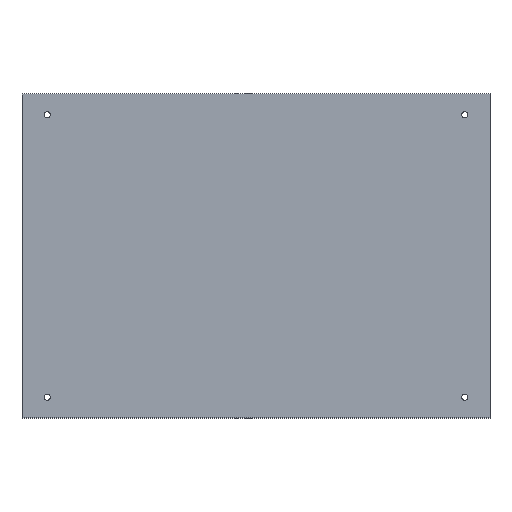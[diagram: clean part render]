
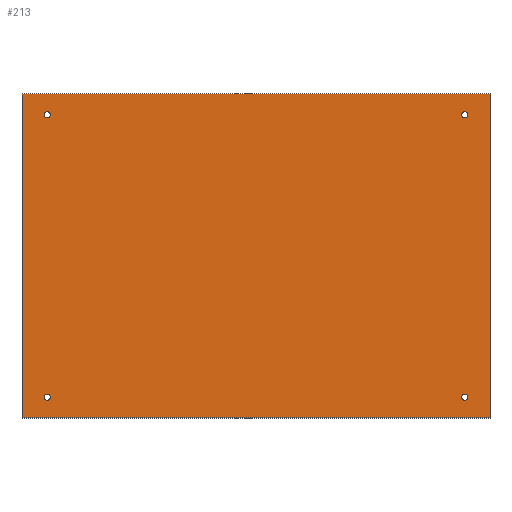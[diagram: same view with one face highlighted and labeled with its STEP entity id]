
A CAD part, top view. The second image highlights one B-rep face of the part: STEP entity #213.
In plain terms, the highlighted planar face has unit normal (0, 0, 1).
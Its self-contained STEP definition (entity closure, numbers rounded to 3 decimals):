
#24 = VERTEX_POINT('',#25);
#25 = CARTESIAN_POINT('',(-130.,-90.,90.));
#32 = PLANE('',#33);
#33 = AXIS2_PLACEMENT_3D('',#34,#35,#36);
#34 = CARTESIAN_POINT('',(-130.,-90.,88.5));
#35 = DIRECTION('',(1.,0.,0.));
#36 = DIRECTION('',(0.,0.,1.));
#44 = PLANE('',#45);
#45 = AXIS2_PLACEMENT_3D('',#46,#47,#48);
#46 = CARTESIAN_POINT('',(-130.,-90.,88.5));
#47 = DIRECTION('',(0.,1.,0.));
#48 = DIRECTION('',(0.,0.,1.));
#85 = VERTEX_POINT('',#86);
#86 = CARTESIAN_POINT('',(-130.,90.,90.));
#100 = PLANE('',#101);
#101 = AXIS2_PLACEMENT_3D('',#102,#103,#104);
#102 = CARTESIAN_POINT('',(-130.,90.,88.5));
#103 = DIRECTION('',(0.,1.,0.));
#104 = DIRECTION('',(0.,0.,1.));
#112 = EDGE_CURVE('',#24,#85,#113,.T.);
#113 = SURFACE_CURVE('',#114,(#118,#125),.PCURVE_S1.);
#114 = LINE('',#115,#116);
#115 = CARTESIAN_POINT('',(-130.,-90.,90.));
#116 = VECTOR('',#117,1.);
#117 = DIRECTION('',(0.,1.,0.));
#118 = PCURVE('',#32,#119);
#119 = DEFINITIONAL_REPRESENTATION('',(#120),#124);
#120 = LINE('',#121,#122);
#121 = CARTESIAN_POINT('',(1.5,0.));
#122 = VECTOR('',#123,1.);
#123 = DIRECTION('',(0.,-1.));
#124 = ( GEOMETRIC_REPRESENTATION_CONTEXT(2) 
PARAMETRIC_REPRESENTATION_CONTEXT() REPRESENTATION_CONTEXT('2D SPACE',''
  ) );
#125 = PCURVE('',#126,#131);
#126 = PLANE('',#127);
#127 = AXIS2_PLACEMENT_3D('',#128,#129,#130);
#128 = CARTESIAN_POINT('',(-130.,-90.,90.));
#129 = DIRECTION('',(0.,0.,1.));
#130 = DIRECTION('',(1.,0.,0.));
#131 = DEFINITIONAL_REPRESENTATION('',(#132),#136);
#132 = LINE('',#133,#134);
#133 = CARTESIAN_POINT('',(0.,0.));
#134 = VECTOR('',#135,1.);
#135 = DIRECTION('',(0.,1.));
#136 = ( GEOMETRIC_REPRESENTATION_CONTEXT(2) 
PARAMETRIC_REPRESENTATION_CONTEXT() REPRESENTATION_CONTEXT('2D SPACE',''
  ) );
#165 = EDGE_CURVE('',#24,#166,#168,.T.);
#166 = VERTEX_POINT('',#167);
#167 = CARTESIAN_POINT('',(130.,-90.,90.));
#168 = SURFACE_CURVE('',#169,(#173,#180),.PCURVE_S1.);
#169 = LINE('',#170,#171);
#170 = CARTESIAN_POINT('',(-130.,-90.,90.));
#171 = VECTOR('',#172,1.);
#172 = DIRECTION('',(1.,0.,0.));
#173 = PCURVE('',#44,#174);
#174 = DEFINITIONAL_REPRESENTATION('',(#175),#179);
#175 = LINE('',#176,#177);
#176 = CARTESIAN_POINT('',(1.5,0.));
#177 = VECTOR('',#178,1.);
#178 = DIRECTION('',(0.,1.));
#179 = ( GEOMETRIC_REPRESENTATION_CONTEXT(2) 
PARAMETRIC_REPRESENTATION_CONTEXT() REPRESENTATION_CONTEXT('2D SPACE',''
  ) );
#180 = PCURVE('',#126,#181);
#181 = DEFINITIONAL_REPRESENTATION('',(#182),#186);
#182 = LINE('',#183,#184);
#183 = CARTESIAN_POINT('',(0.,0.));
#184 = VECTOR('',#185,1.);
#185 = DIRECTION('',(1.,0.));
#186 = ( GEOMETRIC_REPRESENTATION_CONTEXT(2) 
PARAMETRIC_REPRESENTATION_CONTEXT() REPRESENTATION_CONTEXT('2D SPACE',''
  ) );
#202 = PLANE('',#203);
#203 = AXIS2_PLACEMENT_3D('',#204,#205,#206);
#204 = CARTESIAN_POINT('',(130.,-90.,88.5));
#205 = DIRECTION('',(1.,0.,0.));
#206 = DIRECTION('',(0.,0.,1.));
#213 = ADVANCED_FACE('',(#214,#262,#293,#324,#355),#126,.T.);
#214 = FACE_BOUND('',#215,.T.);
#215 = EDGE_LOOP('',(#216,#217,#218,#241));
#216 = ORIENTED_EDGE('',*,*,#112,.F.);
#217 = ORIENTED_EDGE('',*,*,#165,.T.);
#218 = ORIENTED_EDGE('',*,*,#219,.T.);
#219 = EDGE_CURVE('',#166,#220,#222,.T.);
#220 = VERTEX_POINT('',#221);
#221 = CARTESIAN_POINT('',(130.,90.,90.));
#222 = SURFACE_CURVE('',#223,(#227,#234),.PCURVE_S1.);
#223 = LINE('',#224,#225);
#224 = CARTESIAN_POINT('',(130.,-90.,90.));
#225 = VECTOR('',#226,1.);
#226 = DIRECTION('',(0.,1.,0.));
#227 = PCURVE('',#126,#228);
#228 = DEFINITIONAL_REPRESENTATION('',(#229),#233);
#229 = LINE('',#230,#231);
#230 = CARTESIAN_POINT('',(260.,0.));
#231 = VECTOR('',#232,1.);
#232 = DIRECTION('',(0.,1.));
#233 = ( GEOMETRIC_REPRESENTATION_CONTEXT(2) 
PARAMETRIC_REPRESENTATION_CONTEXT() REPRESENTATION_CONTEXT('2D SPACE',''
  ) );
#234 = PCURVE('',#202,#235);
#235 = DEFINITIONAL_REPRESENTATION('',(#236),#240);
#236 = LINE('',#237,#238);
#237 = CARTESIAN_POINT('',(1.5,0.));
#238 = VECTOR('',#239,1.);
#239 = DIRECTION('',(0.,-1.));
#240 = ( GEOMETRIC_REPRESENTATION_CONTEXT(2) 
PARAMETRIC_REPRESENTATION_CONTEXT() REPRESENTATION_CONTEXT('2D SPACE',''
  ) );
#241 = ORIENTED_EDGE('',*,*,#242,.F.);
#242 = EDGE_CURVE('',#85,#220,#243,.T.);
#243 = SURFACE_CURVE('',#244,(#248,#255),.PCURVE_S1.);
#244 = LINE('',#245,#246);
#245 = CARTESIAN_POINT('',(-130.,90.,90.));
#246 = VECTOR('',#247,1.);
#247 = DIRECTION('',(1.,0.,0.));
#248 = PCURVE('',#126,#249);
#249 = DEFINITIONAL_REPRESENTATION('',(#250),#254);
#250 = LINE('',#251,#252);
#251 = CARTESIAN_POINT('',(0.,180.));
#252 = VECTOR('',#253,1.);
#253 = DIRECTION('',(1.,0.));
#254 = ( GEOMETRIC_REPRESENTATION_CONTEXT(2) 
PARAMETRIC_REPRESENTATION_CONTEXT() REPRESENTATION_CONTEXT('2D SPACE',''
  ) );
#255 = PCURVE('',#100,#256);
#256 = DEFINITIONAL_REPRESENTATION('',(#257),#261);
#257 = LINE('',#258,#259);
#258 = CARTESIAN_POINT('',(1.5,0.));
#259 = VECTOR('',#260,1.);
#260 = DIRECTION('',(0.,1.));
#261 = ( GEOMETRIC_REPRESENTATION_CONTEXT(2) 
PARAMETRIC_REPRESENTATION_CONTEXT() REPRESENTATION_CONTEXT('2D SPACE',''
  ) );
#262 = FACE_BOUND('',#263,.T.);
#263 = EDGE_LOOP('',(#264));
#264 = ORIENTED_EDGE('',*,*,#265,.F.);
#265 = EDGE_CURVE('',#266,#266,#268,.T.);
#266 = VERTEX_POINT('',#267);
#267 = CARTESIAN_POINT('',(-114.3,-78.5,90.));
#268 = SURFACE_CURVE('',#269,(#274,#281),.PCURVE_S1.);
#269 = CIRCLE('',#270,1.7);
#270 = AXIS2_PLACEMENT_3D('',#271,#272,#273);
#271 = CARTESIAN_POINT('',(-116.,-78.5,90.));
#272 = DIRECTION('',(0.,0.,1.));
#273 = DIRECTION('',(1.,0.,-0.));
#274 = PCURVE('',#126,#275);
#275 = DEFINITIONAL_REPRESENTATION('',(#276),#280);
#276 = CIRCLE('',#277,1.7);
#277 = AXIS2_PLACEMENT_2D('',#278,#279);
#278 = CARTESIAN_POINT('',(14.,11.5));
#279 = DIRECTION('',(1.,0.));
#280 = ( GEOMETRIC_REPRESENTATION_CONTEXT(2) 
PARAMETRIC_REPRESENTATION_CONTEXT() REPRESENTATION_CONTEXT('2D SPACE',''
  ) );
#281 = PCURVE('',#282,#287);
#282 = CYLINDRICAL_SURFACE('',#283,1.7);
#283 = AXIS2_PLACEMENT_3D('',#284,#285,#286);
#284 = CARTESIAN_POINT('',(-116.,-78.5,87.5));
#285 = DIRECTION('',(0.,0.,1.));
#286 = DIRECTION('',(1.,0.,-0.));
#287 = DEFINITIONAL_REPRESENTATION('',(#288),#292);
#288 = LINE('',#289,#290);
#289 = CARTESIAN_POINT('',(0.,2.5));
#290 = VECTOR('',#291,1.);
#291 = DIRECTION('',(1.,0.));
#292 = ( GEOMETRIC_REPRESENTATION_CONTEXT(2) 
PARAMETRIC_REPRESENTATION_CONTEXT() REPRESENTATION_CONTEXT('2D SPACE',''
  ) );
#293 = FACE_BOUND('',#294,.T.);
#294 = EDGE_LOOP('',(#295));
#295 = ORIENTED_EDGE('',*,*,#296,.F.);
#296 = EDGE_CURVE('',#297,#297,#299,.T.);
#297 = VERTEX_POINT('',#298);
#298 = CARTESIAN_POINT('',(117.7,-78.5,90.));
#299 = SURFACE_CURVE('',#300,(#305,#312),.PCURVE_S1.);
#300 = CIRCLE('',#301,1.7);
#301 = AXIS2_PLACEMENT_3D('',#302,#303,#304);
#302 = CARTESIAN_POINT('',(116.,-78.5,90.));
#303 = DIRECTION('',(0.,0.,1.));
#304 = DIRECTION('',(1.,0.,-0.));
#305 = PCURVE('',#126,#306);
#306 = DEFINITIONAL_REPRESENTATION('',(#307),#311);
#307 = CIRCLE('',#308,1.7);
#308 = AXIS2_PLACEMENT_2D('',#309,#310);
#309 = CARTESIAN_POINT('',(246.,11.5));
#310 = DIRECTION('',(1.,0.));
#311 = ( GEOMETRIC_REPRESENTATION_CONTEXT(2) 
PARAMETRIC_REPRESENTATION_CONTEXT() REPRESENTATION_CONTEXT('2D SPACE',''
  ) );
#312 = PCURVE('',#313,#318);
#313 = CYLINDRICAL_SURFACE('',#314,1.7);
#314 = AXIS2_PLACEMENT_3D('',#315,#316,#317);
#315 = CARTESIAN_POINT('',(116.,-78.5,87.5));
#316 = DIRECTION('',(0.,0.,1.));
#317 = DIRECTION('',(1.,0.,-0.));
#318 = DEFINITIONAL_REPRESENTATION('',(#319),#323);
#319 = LINE('',#320,#321);
#320 = CARTESIAN_POINT('',(0.,2.5));
#321 = VECTOR('',#322,1.);
#322 = DIRECTION('',(1.,0.));
#323 = ( GEOMETRIC_REPRESENTATION_CONTEXT(2) 
PARAMETRIC_REPRESENTATION_CONTEXT() REPRESENTATION_CONTEXT('2D SPACE',''
  ) );
#324 = FACE_BOUND('',#325,.T.);
#325 = EDGE_LOOP('',(#326));
#326 = ORIENTED_EDGE('',*,*,#327,.F.);
#327 = EDGE_CURVE('',#328,#328,#330,.T.);
#328 = VERTEX_POINT('',#329);
#329 = CARTESIAN_POINT('',(-114.3,78.5,90.));
#330 = SURFACE_CURVE('',#331,(#336,#343),.PCURVE_S1.);
#331 = CIRCLE('',#332,1.7);
#332 = AXIS2_PLACEMENT_3D('',#333,#334,#335);
#333 = CARTESIAN_POINT('',(-116.,78.5,90.));
#334 = DIRECTION('',(0.,0.,1.));
#335 = DIRECTION('',(1.,0.,-0.));
#336 = PCURVE('',#126,#337);
#337 = DEFINITIONAL_REPRESENTATION('',(#338),#342);
#338 = CIRCLE('',#339,1.7);
#339 = AXIS2_PLACEMENT_2D('',#340,#341);
#340 = CARTESIAN_POINT('',(14.,168.5));
#341 = DIRECTION('',(1.,0.));
#342 = ( GEOMETRIC_REPRESENTATION_CONTEXT(2) 
PARAMETRIC_REPRESENTATION_CONTEXT() REPRESENTATION_CONTEXT('2D SPACE',''
  ) );
#343 = PCURVE('',#344,#349);
#344 = CYLINDRICAL_SURFACE('',#345,1.7);
#345 = AXIS2_PLACEMENT_3D('',#346,#347,#348);
#346 = CARTESIAN_POINT('',(-116.,78.5,87.5));
#347 = DIRECTION('',(0.,0.,1.));
#348 = DIRECTION('',(1.,0.,-0.));
#349 = DEFINITIONAL_REPRESENTATION('',(#350),#354);
#350 = LINE('',#351,#352);
#351 = CARTESIAN_POINT('',(0.,2.5));
#352 = VECTOR('',#353,1.);
#353 = DIRECTION('',(1.,0.));
#354 = ( GEOMETRIC_REPRESENTATION_CONTEXT(2) 
PARAMETRIC_REPRESENTATION_CONTEXT() REPRESENTATION_CONTEXT('2D SPACE',''
  ) );
#355 = FACE_BOUND('',#356,.T.);
#356 = EDGE_LOOP('',(#357));
#357 = ORIENTED_EDGE('',*,*,#358,.F.);
#358 = EDGE_CURVE('',#359,#359,#361,.T.);
#359 = VERTEX_POINT('',#360);
#360 = CARTESIAN_POINT('',(117.7,78.5,90.));
#361 = SURFACE_CURVE('',#362,(#367,#374),.PCURVE_S1.);
#362 = CIRCLE('',#363,1.7);
#363 = AXIS2_PLACEMENT_3D('',#364,#365,#366);
#364 = CARTESIAN_POINT('',(116.,78.5,90.));
#365 = DIRECTION('',(0.,0.,1.));
#366 = DIRECTION('',(1.,0.,-0.));
#367 = PCURVE('',#126,#368);
#368 = DEFINITIONAL_REPRESENTATION('',(#369),#373);
#369 = CIRCLE('',#370,1.7);
#370 = AXIS2_PLACEMENT_2D('',#371,#372);
#371 = CARTESIAN_POINT('',(246.,168.5));
#372 = DIRECTION('',(1.,0.));
#373 = ( GEOMETRIC_REPRESENTATION_CONTEXT(2) 
PARAMETRIC_REPRESENTATION_CONTEXT() REPRESENTATION_CONTEXT('2D SPACE',''
  ) );
#374 = PCURVE('',#375,#380);
#375 = CYLINDRICAL_SURFACE('',#376,1.7);
#376 = AXIS2_PLACEMENT_3D('',#377,#378,#379);
#377 = CARTESIAN_POINT('',(116.,78.5,87.5));
#378 = DIRECTION('',(0.,0.,1.));
#379 = DIRECTION('',(1.,0.,-0.));
#380 = DEFINITIONAL_REPRESENTATION('',(#381),#385);
#381 = LINE('',#382,#383);
#382 = CARTESIAN_POINT('',(0.,2.5));
#383 = VECTOR('',#384,1.);
#384 = DIRECTION('',(1.,0.));
#385 = ( GEOMETRIC_REPRESENTATION_CONTEXT(2) 
PARAMETRIC_REPRESENTATION_CONTEXT() REPRESENTATION_CONTEXT('2D SPACE',''
  ) );
